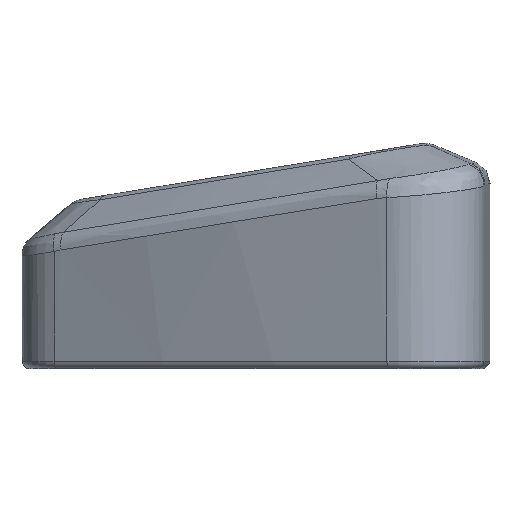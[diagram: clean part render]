
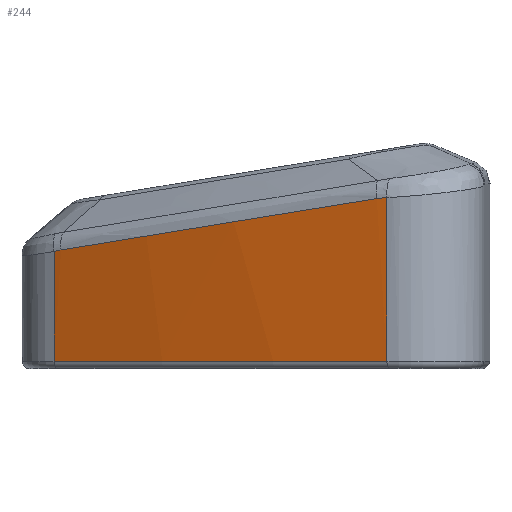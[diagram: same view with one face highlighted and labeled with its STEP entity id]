
A CAD part, front view. The second image highlights one B-rep face of the part: STEP entity #244.
In plain terms, the highlighted cylindrical face has radius 153.94 mm (diameter 307.88 mm), a partial arc.
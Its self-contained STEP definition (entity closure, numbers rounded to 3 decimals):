
#113=CYLINDRICAL_SURFACE('',#1115,153.94);
#120=LINE('',#2158,#128);
#121=LINE('',#2163,#129);
#128=VECTOR('',#1182,1.);
#129=VECTOR('',#1185,1.);
#177=FACE_OUTER_BOUND('',#347,.T.);
#244=ADVANCED_FACE('',(#177),#113,.T.);
#301=CIRCLE('',#1114,153.94);
#347=EDGE_LOOP('',(#481,#482,#483,#484,#485,#486));
#481=ORIENTED_EDGE('',*,*,#909,.T.);
#482=ORIENTED_EDGE('',*,*,#910,.T.);
#483=ORIENTED_EDGE('',*,*,#911,.T.);
#484=ORIENTED_EDGE('',*,*,#912,.T.);
#485=ORIENTED_EDGE('',*,*,#913,.T.);
#486=ORIENTED_EDGE('',*,*,#914,.T.);
#793=VERTEX_POINT('',#2159);
#794=VERTEX_POINT('',#2160);
#795=VERTEX_POINT('',#2162);
#796=VERTEX_POINT('',#2164);
#797=VERTEX_POINT('',#2169);
#798=VERTEX_POINT('',#2183);
#909=EDGE_CURVE('',#793,#794,#120,.T.);
#910=EDGE_CURVE('',#794,#795,#301,.T.);
#911=EDGE_CURVE('',#795,#796,#121,.T.);
#912=EDGE_CURVE('',#796,#797,#1061,.T.);
#913=EDGE_CURVE('',#797,#798,#1062,.T.);
#914=EDGE_CURVE('',#798,#793,#1063,.T.);
#1061=B_SPLINE_CURVE_WITH_KNOTS('',3,(#2165,#2166,#2167,#2168),.UNSPECIFIED.,
 .F.,.F.,(4,4),(0.,1.),.UNSPECIFIED.);
#1062=B_SPLINE_CURVE_WITH_KNOTS('',3,(#2170,#2171,#2172,#2173,#2174,#2175,
#2176,#2177,#2178,#2179,#2180,#2181,#2182),.UNSPECIFIED.,.F.,.F.,(4,3,3,
3,4),(0.,0.239,0.507,0.775,1.),.UNSPECIFIED.);
#1063=B_SPLINE_CURVE_WITH_KNOTS('',3,(#2184,#2185,#2186,#2187),.UNSPECIFIED.,
 .F.,.F.,(4,4),(0.,1.),.UNSPECIFIED.);
#1114=AXIS2_PLACEMENT_3D('',#2161,#1183,#1184);
#1115=AXIS2_PLACEMENT_3D('',#2188,#1186,#1187);
#1182=DIRECTION('',(0.,0.,-1.));
#1183=DIRECTION('',(0.,0.,1.));
#1184=DIRECTION('',(1.,0.,0.));
#1185=DIRECTION('',(0.,0.,1.));
#1186=DIRECTION('',(0.,0.,-1.));
#1187=DIRECTION('',(-1.,0.,0.));
#2158=CARTESIAN_POINT('',(110.643,51.06,103.97));
#2159=CARTESIAN_POINT('',(110.643,51.06,105.397));
#2160=CARTESIAN_POINT('',(110.643,51.06,97.97));
#2161=CARTESIAN_POINT('',(187.776,184.281,97.97));
#2162=CARTESIAN_POINT('',(133.163,40.354,97.97));
#2163=CARTESIAN_POINT('',(133.163,40.354,103.97));
#2164=CARTESIAN_POINT('',(133.163,40.354,109.044));
#2165=CARTESIAN_POINT('',(133.163,40.354,109.044));
#2166=CARTESIAN_POINT('',(132.935,40.441,109.031));
#2167=CARTESIAN_POINT('',(132.707,40.528,109.009));
#2168=CARTESIAN_POINT('',(132.482,40.615,108.972));
#2169=CARTESIAN_POINT('',(132.482,40.615,108.972));
#2170=CARTESIAN_POINT('',(132.482,40.615,108.972));
#2171=CARTESIAN_POINT('',(130.721,41.293,108.687));
#2172=CARTESIAN_POINT('',(128.972,42.003,108.404));
#2173=CARTESIAN_POINT('',(127.236,42.745,108.122));
#2174=CARTESIAN_POINT('',(125.291,43.577,107.806));
#2175=CARTESIAN_POINT('',(123.363,44.45,107.493));
#2176=CARTESIAN_POINT('',(121.453,45.361,107.183));
#2177=CARTESIAN_POINT('',(119.545,46.272,106.873));
#2178=CARTESIAN_POINT('',(117.655,47.223,106.565));
#2179=CARTESIAN_POINT('',(115.785,48.212,106.26));
#2180=CARTESIAN_POINT('',(114.214,49.044,106.005));
#2181=CARTESIAN_POINT('',(112.657,49.902,105.751));
#2182=CARTESIAN_POINT('',(111.115,50.787,105.499));
#2183=CARTESIAN_POINT('',(111.115,50.787,105.499));
#2184=CARTESIAN_POINT('',(111.115,50.787,105.499));
#2185=CARTESIAN_POINT('',(110.957,50.879,105.473));
#2186=CARTESIAN_POINT('',(110.799,50.969,105.438));
#2187=CARTESIAN_POINT('',(110.643,51.06,105.397));
#2188=CARTESIAN_POINT('',(187.776,184.281,103.97));
